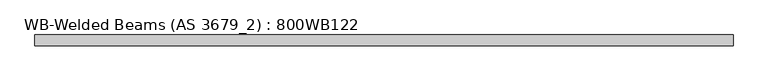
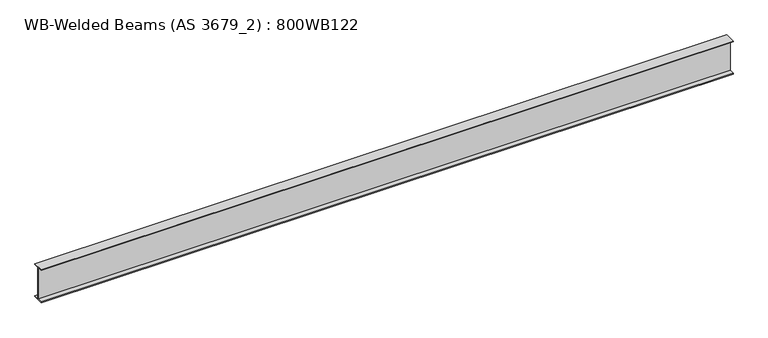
"""IFC4 building model written with IfcOpenShell, lengths in millimetres: beam geometry, WB-Welded Beams (AS 3679_2) : 800WB122."""

from ifc_helpers import new_model, si_unit, frame, origin, place, context, project, spatial, polyline, outline, extrude, source, transform, mapped, element, save


def wb_welded_beams_as_3679_2_800wb122_3b9a96c3(model_context):
    return source(origin(), model_context, "Body", "SweptSolid", [
        extrude(outline(polyline([(125.0, -380.0), (125.0, -396.0), (-125.0, -396.0), (-125.0, -380.0), (-5.0, -380.0), (-5.0, 380.0), (-125.0, 380.0), (-125.0, 396.0), (125.0, 396.0), (125.0, 380.0), (5.0, 380.0), (5.0, -380.0), (125.0, -380.0)])), frame((-8000.0, 0.0, 0.0), z_axis=(1.0, 0.0, 0.0), x_axis=(0.0, 1.0, 0.0)), (0.0, 0.0, 1.0), 15787.2),
    ])


if __name__ == "__main__":
    model = new_model("IFC4")
    model_context = context("Model", 3, world=origin())
    ifc_project = project(units=[si_unit("LENGTHUNIT", "METRE", prefix="MILLI")], contexts=[model_context])
    site = spatial("IfcSite", under=ifc_project)
    building = spatial("IfcBuilding", under=site)
    placement = place(None, origin())
    wb_welded_beams_as_3679_2_800wb122_shape = wb_welded_beams_as_3679_2_800wb122_3b9a96c3(model_context)
    element("IfcBeam", 1, ObjectType="WB-Welded Beams (AS 3679_2) : 800WB122", at=placement, inside=building, context=model_context, shape_type="MappedRepresentation", body=[
        mapped(wb_welded_beams_as_3679_2_800wb122_shape, transform((0.0, 0.0, 0.0), x_axis=(1.0, 0.0, 0.0), y_axis=(0.0, 1.0, 0.0), z_axis=(0.0, 0.0, 1.0))),
    ])
    save(model, "model.ifc")
